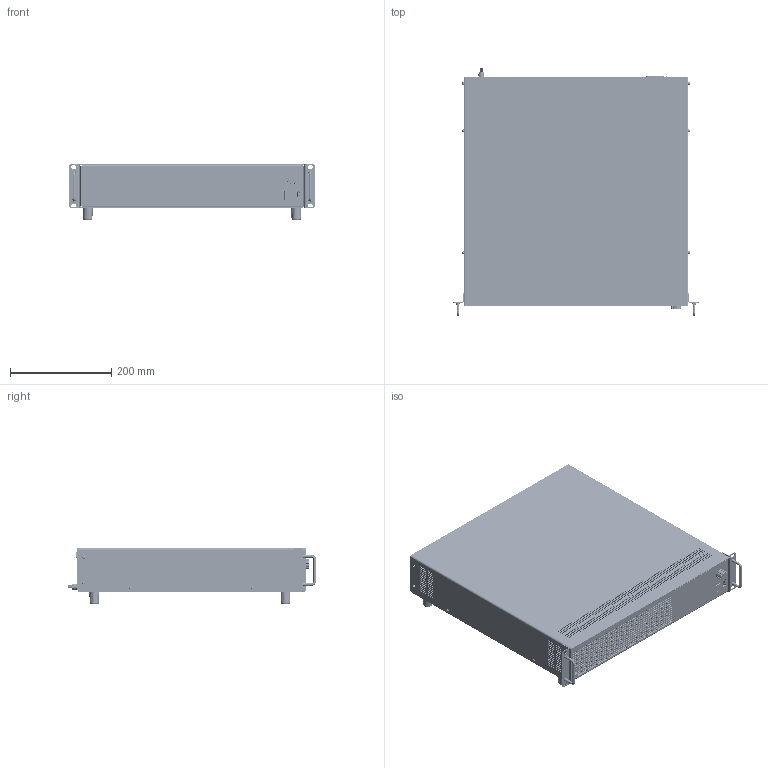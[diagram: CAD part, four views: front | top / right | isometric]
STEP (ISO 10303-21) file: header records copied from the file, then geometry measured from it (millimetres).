
FILE_DESCRIPTION(('STEP AP214'),'1');
FILE_NAME('PMLA_M2_M_19Z_2_PH8_7_62_ST43_BRD_3D_01.step','2025-05-27T06:44:37',(' '),(' '),'Spatial InterOp 3D',' ',' ');
FILE_SCHEMA(('AUTOMOTIVE_DESIGN { 1 0 10303 214 1 1 1 1 }'));
Length unit declared in the file: millimetre
Products named in the file (15): 473_PMLI_Boden_3D_06; 459_PLI_19_Zoll_Deckel_3D_03; 1747_PMLA_Rückwand_3D_07  mit Einbauten; *U1058; *U1059; *U1060; *U1061; 1E5E0040; AutoCreatedBlock_997; 2351_PMLA Frontplatte Master mit Touch UI_01_mit_Einbauten; A$C67ED07CE; A$C2C745159; AutoCreatedBlock_1009; AutoCreatedBlock_989
Assembly tree (18 placements, depth 3):
  (unnamed)
    473_PMLI_Boden_3D_06
    459_PLI_19_Zoll_Deckel_3D_03
    1747_PMLA_Rückwand_3D_07  mit Einbauten
      *U1058
      *U1059  x2
      *U1060  x3
      *U1061  x2
      1E5E0040
      AutoCreatedBlock_997
    2351_PMLA Frontplatte Master mit Touch UI_01_mit_Einbauten
      A$C67ED07CE
      A$C2C745159
      AutoCreatedBlock_1009
    AutoCreatedBlock_989
Bounding box: 483.3 x 488.5 x 109.5 mm (x, y, z)
Volume: 15913526.5 mm3; surface area: 1773015.4 mm2
Topology: 124 solids, 126 shells, 16377 faces, 43171 edges, 27771 vertices
Faces by surface type: plane 10237, cylinder 3243, cone 2097, bspline 407, torus 307, sphere 80, extrusion 6
Entity records: 686831 total; most frequent: CARTESIAN_POINT 148774, ORIENTED_EDGE 84420, DIRECTION 81915, EDGE_CURVE 42210, VECTOR 31609, LINE 31603, VERTEX_POINT 26927, AXIS2_PLACEMENT_3D 25153
